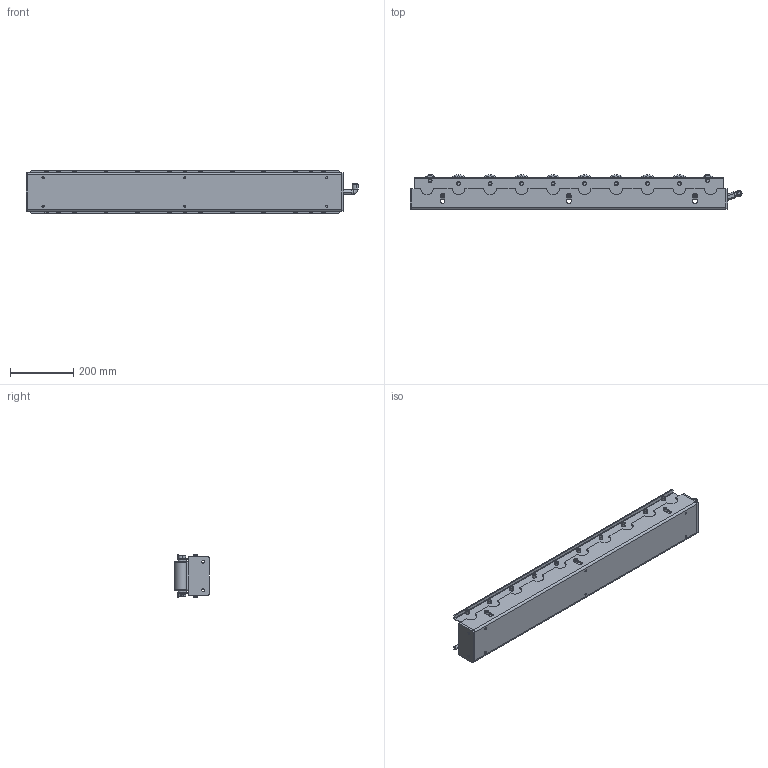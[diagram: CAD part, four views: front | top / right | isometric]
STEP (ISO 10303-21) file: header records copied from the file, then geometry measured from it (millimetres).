
FILE_DESCRIPTION (( 'STEP AP214' ), '1' );
FILE_NAME ('ALR-PR-571008H_H.STEP', '2013-03-21T04:38:12', ( '' ), ( '' ), '', '', '' );
FILE_SCHEMA (( 'AUTOMOTIVE_DESIGN' ));
Length unit declared in the file: millimetre
Products named in the file (7): 38roller; 57roller; KQ2W10_03S_2_03; CB10_12; frame1; frame2; ALR-PR-571008H_H
Assembly tree (19 placements, depth 2):
  ALR-PR-571008H_H
    frame2
    frame1
    CB10_12  x6
    KQ2W10_03S_2_03
    57roller  x8
    38roller  x2
Bounding box: 1053 x 110.05 x 135 mm (x, y, z)
Volume: 4045534.8 mm3; surface area: 1257071.6 mm2
Topology: 25 solids, 25 shells, 764 faces, 1900 edges, 1218 vertices
Faces by surface type: cylinder 348, plane 326, cone 48, torus 40, bspline 2
Entity records: 12595 total; most frequent: CARTESIAN_POINT 2535, DIRECTION 2060, ORIENTED_EDGE 1900, EDGE_CURVE 950, AXIS2_PLACEMENT_3D 755, VERTEX_POINT 623, VECTOR 550, LINE 550
